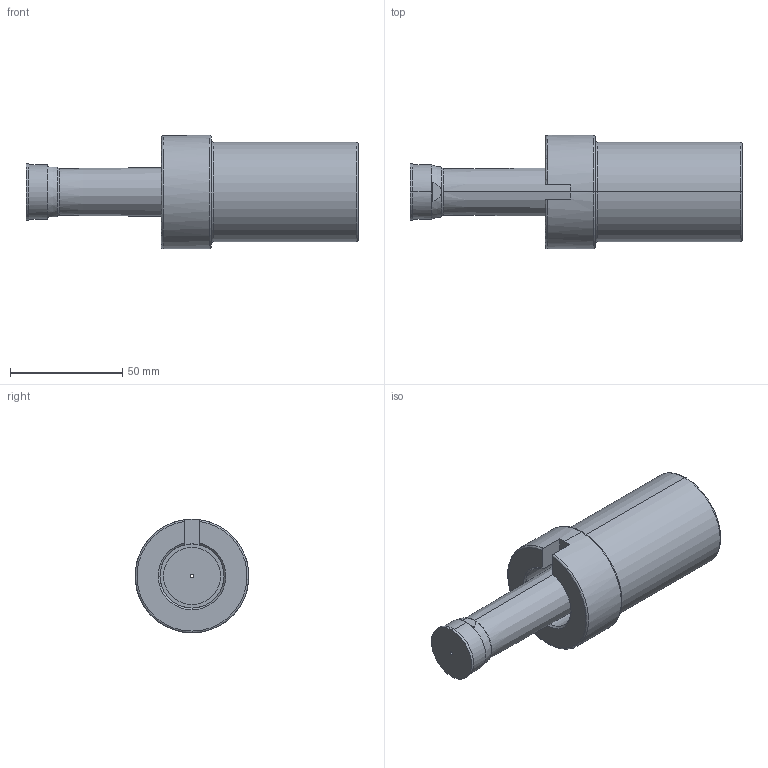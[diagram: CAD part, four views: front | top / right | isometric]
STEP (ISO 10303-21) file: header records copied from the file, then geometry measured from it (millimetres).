
FILE_DESCRIPTION (( 'STEP AP203' ), '1' );
FILE_NAME ('Conan100-HS-2.375.STEP', '2021-11-09T14:06:24', ( 'Jerry' ), ( '' ), 'SwSTEP 2.0', 'SolidWorks 2013', '' );
FILE_SCHEMA (( 'CONFIG_CONTROL_DESIGN' ));
Length unit declared in the file: inch
Products named in the file (1): Conan100-HS-2.375
Bounding box: 147.96 x 50.67 x 50.67 mm (x, y, z)
Volume: 138201 mm3; surface area: 37088.3 mm2
Topology: 1 solids, 1 shells, 116 faces, 286 edges, 176 vertices
Faces by surface type: cylinder 40, plane 32, torus 16, cone 11, sphere 10, bspline 7
Entity records: 3832 total; most frequent: CARTESIAN_POINT 1031, DIRECTION 602, ORIENTED_EDGE 560, EDGE_CURVE 280, AXIS2_PLACEMENT_3D 257, VERTEX_POINT 176, CIRCLE 147, EDGE_LOOP 128
